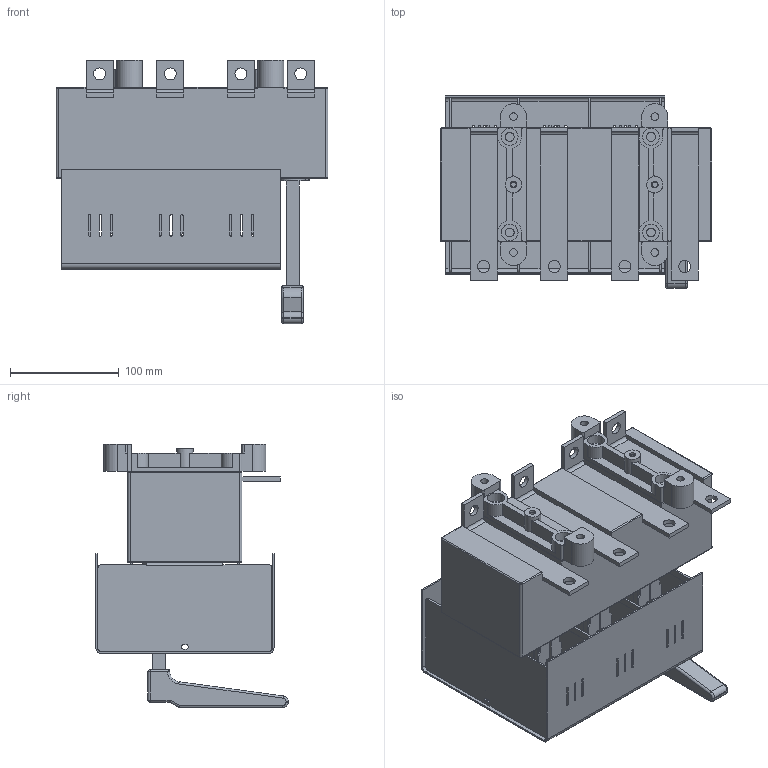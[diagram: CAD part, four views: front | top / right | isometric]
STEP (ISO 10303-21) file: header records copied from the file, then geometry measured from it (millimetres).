
FILE_DESCRIPTION(/* description */ (''),/* implementation_level */ '2;1');
FILE_NAME(/* name */ 'RAB 1 P3 NB-R.stp',/* time_stamp */ '2021-08-19T12:48:42+02:00',/* author */ (''),/* organization */ (''),/* preprocessor_version */ 'ST-DEVELOPER v18.1',/* originating_system */ 'SIEMENS PLM Software NX 1965',/* authorisation */ '');
FILE_SCHEMA (('AUTOMOTIVE_DESIGN { 1 0 10303 214 3 1 1 }','INTEGRATED_CNC_SCHEMA','MODEL_BASED_INTEGRATED_MANUFACTURING_SCHEMA'));
Length unit declared in the file: millimetre
Products named in the file (1): RAB 1 P3 NB-R_stp
Bounding box: 250 x 177 x 242.3 mm (x, y, z)
Volume: 2494943.2 mm3; surface area: 443449.8 mm2
Topology: 1 solids, 1 shells, 1064 faces, 2927 edges, 1892 vertices
Faces by surface type: plane 677, cylinder 365, torus 13, sphere 6, bspline 3
Full cylindrical faces by diameter (mm): 4.8 x2, 6.2 x2, 7 x4, 8.2 x4, 11 x8, 14 x4, 15 x2, 15.5 x4
Entity records: 33782 total; most frequent: CARTESIAN_POINT 5937, ORIENTED_EDGE 5774, DIRECTION 5773, EDGE_CURVE 2887, LINE 2109, VECTOR 2109, VERTEX_POINT 1888, AXIS2_PLACEMENT_3D 1832
